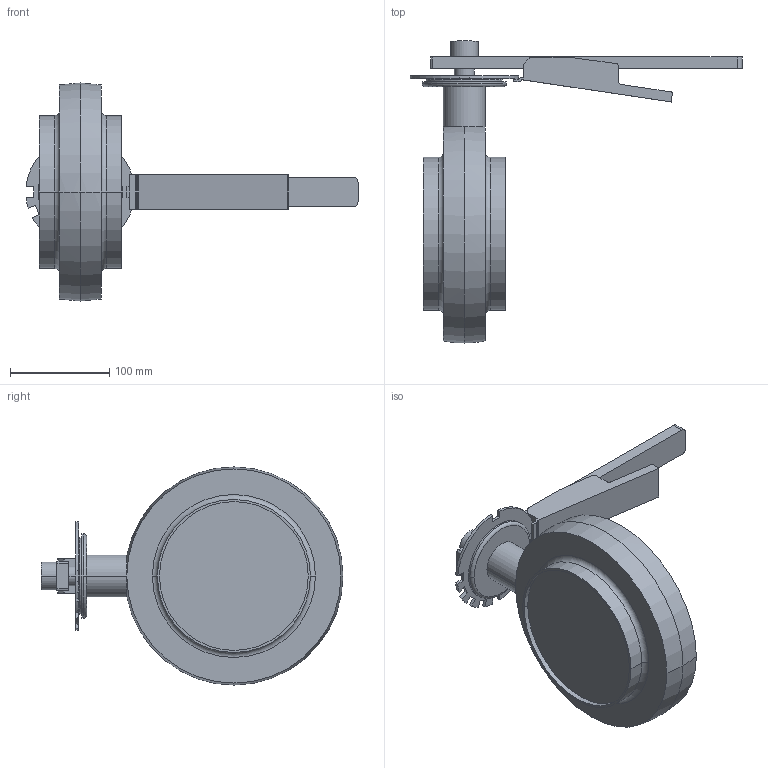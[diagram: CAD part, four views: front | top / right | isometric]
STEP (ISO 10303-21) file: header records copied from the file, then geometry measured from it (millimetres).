
FILE_DESCRIPTION(('OneSpaceDesigner STEP Export'),'2;1');
FILE_NAME('SV1-150-H-12S.stp','2007-04-19T15:01:42',(''),(''),'OneSpace Designer STEP processor for AP214 (Solid Model)','OneSpace Modeling 15.00 06-Feb-2007 (C) CoCreate Software GmbH','');
FILE_SCHEMA(('AUTOMOTIVE_DESIGN { 1 0 10303 214 1 1 1 1 }'));
Length unit declared in the file: millimetre
Products named in the file (2): SV1-150-H-12S; SV1-150-H-12S-vereint
Assembly tree (1 placements, depth 2):
  SV1-150-H-12S-vereint
    SV1-150-H-12S
Bounding box: 334.76 x 304.5 x 219.99 mm (x, y, z)
Volume: 2507623.6 mm3; surface area: 190449.9 mm2
Topology: 1 solids, 1 shells, 115 faces, 295 edges, 193 vertices
Faces by surface type: plane 59, cylinder 42, torus 6, cone 4, sphere 4
Entity records: 3242 total; most frequent: ORIENTED_EDGE 590, CARTESIAN_POINT 540, DIRECTION 520, EDGE_CURVE 295, VERTEX_POINT 193, VECTOR 174, LINE 174, AXIS2_PLACEMENT_3D 173
